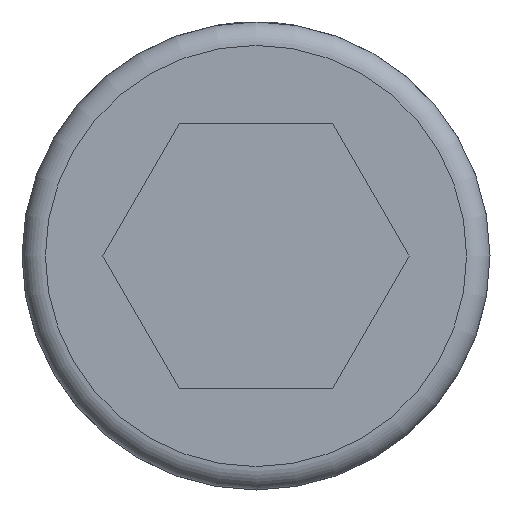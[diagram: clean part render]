
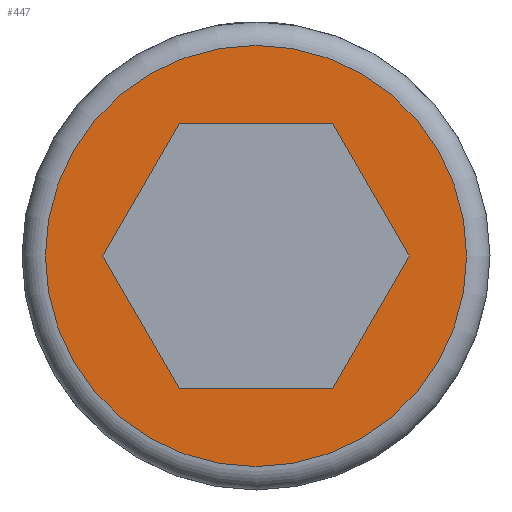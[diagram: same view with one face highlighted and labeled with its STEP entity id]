
A CAD part, left-side view. The second image highlights one B-rep face of the part: STEP entity #447.
In plain terms, the highlighted planar face has unit normal (-1, 0, 0).
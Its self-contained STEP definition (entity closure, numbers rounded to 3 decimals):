
#377=CARTESIAN_POINT('',(135.0,0.,13.5));
#378=VERTEX_POINT('',#377);
#379=CARTESIAN_POINT('',(135.0,0.0,0.0));
#380=DIRECTION('',(1.0,0.0,0.0));
#381=DIRECTION('',(0.0,0.0,-1.0));
#382=AXIS2_PLACEMENT_3D('',#379,#380,#381);
#383=CIRCLE('',#382,13.5);
#384=EDGE_CURVE('',#378,#378,#383,.T.);
#389=CARTESIAN_POINT('',(135.0,0.0,7.5));
#390=DIRECTION('',(-1.0,0.0,0.0));
#391=DIRECTION('',(0.0,0.0,1.0));
#392=AXIS2_PLACEMENT_3D('',#389,#390,#391);
#393=PLANE('',#392);
#394=ORIENTED_EDGE('',*,*,#384,.F.);
#395=EDGE_LOOP('',(#394));
#396=FACE_OUTER_BOUND('',#395,.T.);
#397=CARTESIAN_POINT('',(135.0,-4.907,-8.5));
#398=VERTEX_POINT('',#397);
#399=CARTESIAN_POINT('',(135.0,4.907,-8.5));
#400=VERTEX_POINT('',#399);
#401=CARTESIAN_POINT('',(135.0,-4.907,-8.5));
#402=DIRECTION('',(0.0,1.0,0.0));
#403=VECTOR('',#402,9.815);
#404=LINE('',#401,#403);
#405=EDGE_CURVE('',#398,#400,#404,.T.);
#406=ORIENTED_EDGE('',*,*,#405,.T.);
#407=CARTESIAN_POINT('',(135.0,9.815,0.));
#408=VERTEX_POINT('',#407);
#409=CARTESIAN_POINT('',(135.0,4.907,-8.5));
#410=DIRECTION('',(0.0,0.5,0.866));
#411=VECTOR('',#410,9.815);
#412=LINE('',#409,#411);
#413=EDGE_CURVE('',#400,#408,#412,.T.);
#414=ORIENTED_EDGE('',*,*,#413,.T.);
#415=CARTESIAN_POINT('',(135.0,4.907,8.5));
#416=VERTEX_POINT('',#415);
#417=CARTESIAN_POINT('',(135.0,9.815,0.));
#418=DIRECTION('',(0.0,-0.5,0.866));
#419=VECTOR('',#418,9.815);
#420=LINE('',#417,#419);
#421=EDGE_CURVE('',#408,#416,#420,.T.);
#422=ORIENTED_EDGE('',*,*,#421,.T.);
#423=CARTESIAN_POINT('',(135.0,-4.907,8.5));
#424=VERTEX_POINT('',#423);
#425=CARTESIAN_POINT('',(135.0,4.907,8.5));
#426=DIRECTION('',(0.0,-1.0,0.0));
#427=VECTOR('',#426,9.815);
#428=LINE('',#425,#427);
#429=EDGE_CURVE('',#416,#424,#428,.T.);
#430=ORIENTED_EDGE('',*,*,#429,.T.);
#431=CARTESIAN_POINT('',(135.0,-9.815,0.));
#432=VERTEX_POINT('',#431);
#433=CARTESIAN_POINT('',(135.0,-4.907,8.5));
#434=DIRECTION('',(0.0,-0.5,-0.866));
#435=VECTOR('',#434,9.815);
#436=LINE('',#433,#435);
#437=EDGE_CURVE('',#424,#432,#436,.T.);
#438=ORIENTED_EDGE('',*,*,#437,.T.);
#439=CARTESIAN_POINT('',(135.0,-9.815,0.));
#440=DIRECTION('',(0.0,0.5,-0.866));
#441=VECTOR('',#440,9.815);
#442=LINE('',#439,#441);
#443=EDGE_CURVE('',#432,#398,#442,.T.);
#444=ORIENTED_EDGE('',*,*,#443,.T.);
#445=EDGE_LOOP('',(#406,#414,#422,#430,#438,#444));
#446=FACE_BOUND('',#445,.T.);
#447=ADVANCED_FACE('',(#396,#446),#393,.T.);
